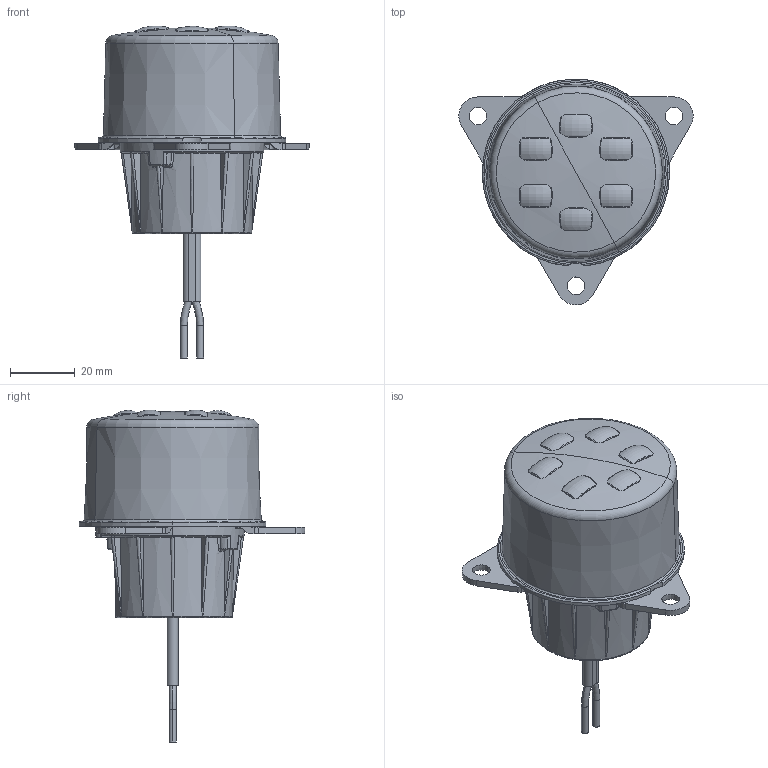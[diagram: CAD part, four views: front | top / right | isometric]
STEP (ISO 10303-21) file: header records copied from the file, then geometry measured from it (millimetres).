
FILE_DESCRIPTION(('CATIA V5 STEP Exchange','CAx-IF Rec.Pracs.--- Model Styling and Organization---1.5--- 2016-08-15','CAx-IF Rec.Pracs.---Supplemental Geometry---1.0---2011-11-01','CAx-IF Rec.Pracs.--- Composite Materials ---1.1---2010-07-15'),'2;1');
FILE_NAME('E:\tmp\ddx\2011206\HELLA_3D_data_LED_rear_lamp_55_mm_2BA-011-172.stp','2022-01-18T07:32:16+00:00',('none'),('none'),'CATIA Version 5-6 Release 2020 SP3 HF9','CATIA V5 STEP AP214 Edition 3 v2','none');
FILE_SCHEMA(('AUTOMOTIVE_DESIGN { 1 0 10303 214 3 1 1 1 }'));
Length unit declared in the file: millimetre
Products named in the file (1): 10001762598_D10_001
Bounding box: 72.54 x 69.97 x 102.81 mm (x, y, z)
Volume: 86676.7 mm3; surface area: 24422.1 mm2
Topology: 2 solids, 72 shells, 931 faces, 2220 edges, 1456 vertices
Faces by surface type: plane 347, cylinder 227, cone 156, torus 95, bspline 74, revolution 18, extrusion 10, sphere 4
Entity records: 30340 total; most frequent: CARTESIAN_POINT 12246, ORIENTED_EDGE 4436, DIRECTION 2278, EDGE_CURVE 2218, VERTEX_POINT 1456, AXIS2_PLACEMENT_3D 1316, EDGE_LOOP 980, ADVANCED_FACE 931
